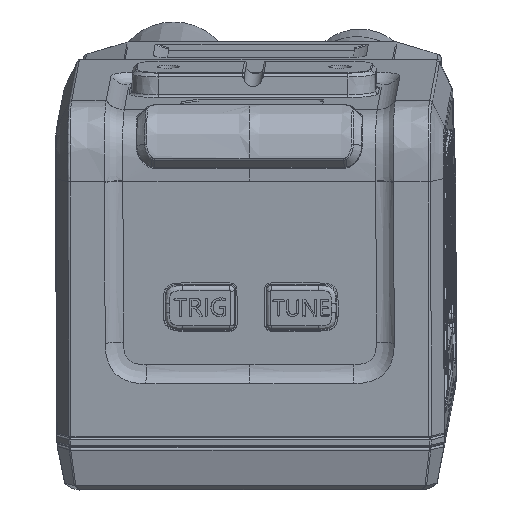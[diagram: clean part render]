
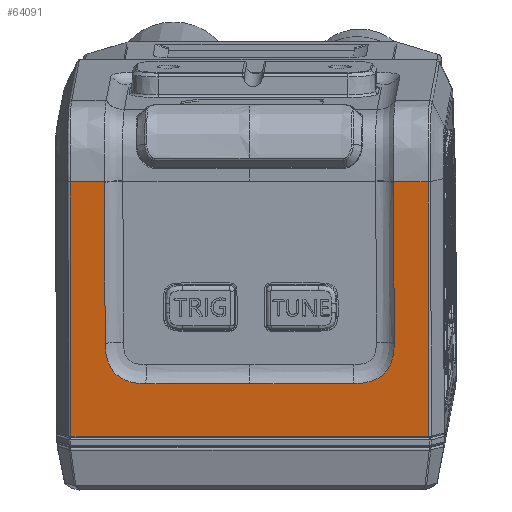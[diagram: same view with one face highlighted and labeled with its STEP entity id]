
A CAD part, left-side view. The second image highlights one B-rep face of the part: STEP entity #64091.
In plain terms, the highlighted planar face has unit normal (-0.991, 0.025, -0.133).
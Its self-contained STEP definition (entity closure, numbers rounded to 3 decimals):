
#9150=CARTESIAN_POINT('',(-266.286,71.873,
-57.034));
#9173=CARTESIAN_POINT('',(-266.383,68.06,
-57.034));
#18886=DIRECTION('',(0.133,-0.003,-0.991));
#18887=VECTOR('',#18886,28.4);
#18888=CARTESIAN_POINT('',(-266.286,71.873,
-57.034));
#18889=LINE('',#18888,#18887);
#18890=DIRECTION('',(-0.025,-1.,0.));
#18891=VECTOR('',#18890,3.815);
#18892=CARTESIAN_POINT('',(-266.286,71.873,
-57.034));
#18893=LINE('',#18892,#18891);
#18894=DIRECTION('',(0.133,-0.003,-0.991));
#18895=VECTOR('',#18894,0.046);
#18896=CARTESIAN_POINT('',(-266.383,68.06,
-57.034));
#18897=LINE('',#18896,#18895);
#18898=DIRECTION('',(0.133,-0.003,-0.991));
#18899=VECTOR('',#18898,17.976);
#18900=CARTESIAN_POINT('',(-266.377,68.06,
-57.08));
#18901=LINE('',#18900,#18899);
#18902=CARTESIAN_POINT('',(-263.99,67.999,
-74.896));
#18903=CARTESIAN_POINT('',(-263.956,67.998,
-75.153));
#18904=CARTESIAN_POINT('',(-263.891,67.976,
-75.641));
#18905=CARTESIAN_POINT('',(-263.796,67.861,
-76.375));
#18906=CARTESIAN_POINT('',(-263.708,67.653,
-77.065));
#18907=CARTESIAN_POINT('',(-263.631,67.329,
-77.706));
#18908=CARTESIAN_POINT('',(-263.567,66.875,
-78.267));
#18909=CARTESIAN_POINT('',(-263.522,66.308,
-78.709));
#18910=CARTESIAN_POINT('',(-263.496,65.667,
-79.023));
#18911=CARTESIAN_POINT('',(-263.487,64.976,
-79.225));
#18912=CARTESIAN_POINT('',(-263.491,64.237,
-79.336));
#18913=CARTESIAN_POINT('',(-263.5,63.744,
-79.356));
#18914=CARTESIAN_POINT('',(-263.507,63.485,
-79.356));
#18916=DIRECTION('',(-0.025,-1.,0.));
#18917=VECTOR('',#18916,11.5);
#18918=CARTESIAN_POINT('',(-263.507,63.485,
-79.356));
#18919=LINE('',#18918,#18917);
#18920=CARTESIAN_POINT('',(-264.09,40.492,
-79.356));
#18921=CARTESIAN_POINT('',(-264.096,40.234,
-79.356));
#18922=CARTESIAN_POINT('',(-264.112,39.742,
-79.336));
#18923=CARTESIAN_POINT('',(-264.145,39.001,
-79.225));
#18924=CARTESIAN_POINT('',(-264.19,38.306,
-79.02));
#18925=CARTESIAN_POINT('',(-264.249,37.661,
-78.701));
#18926=CARTESIAN_POINT('',(-264.324,37.097,
-78.253));
#18927=CARTESIAN_POINT('',(-264.41,36.652,
-77.692));
#18928=CARTESIAN_POINT('',(-264.503,36.338,
-77.058));
#18929=CARTESIAN_POINT('',(-264.6,36.136,
-76.374));
#18930=CARTESIAN_POINT('',(-264.701,36.027,
-75.641));
#18931=CARTESIAN_POINT('',(-264.767,36.008,
-75.153));
#18932=CARTESIAN_POINT('',(-264.801,36.009,
-74.896));
#18934=DIRECTION('',(-0.025,-1.,0.));
#18935=VECTOR('',#18934,3.815);
#18936=CARTESIAN_POINT('',(-267.193,36.07,
-57.033));
#18937=LINE('',#18936,#18935);
#18938=DIRECTION('',(-0.133,0.003,0.991));
#18939=VECTOR('',#18938,28.4);
#18940=CARTESIAN_POINT('',(-263.52,32.161,
-85.182));
#18941=LINE('',#18940,#18939);
#19367=DIRECTION('',(-0.025,-1.,0.));
#19368=VECTOR('',#19367,39.629);
#19369=CARTESIAN_POINT('',(-262.516,71.777,
-85.183));
#19370=LINE('',#19369,#19368);
#20345=DIRECTION('',(0.025,1.,0.));
#20346=VECTOR('',#20345,11.5);
#20347=CARTESIAN_POINT('',(-264.09,40.492,
-79.356));
#20348=LINE('',#20347,#20346);
#20373=DIRECTION('',(0.133,-0.003,-0.991));
#20374=VECTOR('',#20373,17.976);
#20375=CARTESIAN_POINT('',(-267.187,36.07,
-57.079));
#20376=LINE('',#20375,#20374);
#20386=DIRECTION('',(0.133,-0.003,-0.991));
#20387=VECTOR('',#20386,0.046);
#20388=CARTESIAN_POINT('',(-267.193,36.07,
-57.033));
#20389=LINE('',#20388,#20387);
#33228=VERTEX_POINT('',#9150);
#33231=VERTEX_POINT('',#9173);
#33348=CARTESIAN_POINT('',(-262.516,71.777,
-85.183));
#33349=VERTEX_POINT('',#33348);
#33350=CARTESIAN_POINT('',(-263.52,32.161,
-85.182));
#33351=CARTESIAN_POINT('',(-267.29,32.257,
-57.033));
#33352=VERTEX_POINT('',#33350);
#33353=VERTEX_POINT('',#33351);
#33354=CARTESIAN_POINT('',(-266.377,68.06,
-57.08));
#33355=VERTEX_POINT('',#33354);
#33356=CARTESIAN_POINT('',(-263.99,67.999,
-74.896));
#33357=VERTEX_POINT('',#33356);
#33358=VERTEX_POINT('',#18914);
#33359=CARTESIAN_POINT('',(-263.798,51.989,
-79.356));
#33360=VERTEX_POINT('',#33359);
#33361=CARTESIAN_POINT('',(-264.09,40.492,
-79.356));
#33362=VERTEX_POINT('',#33361);
#33363=VERTEX_POINT('',#18932);
#33364=CARTESIAN_POINT('',(-267.187,36.07,
-57.079));
#33365=VERTEX_POINT('',#33364);
#33366=CARTESIAN_POINT('',(-267.193,36.07,
-57.033));
#33367=VERTEX_POINT('',#33366);
#64061=CARTESIAN_POINT('',(-267.344,31.643,
-56.75));
#64062=DIRECTION('',(-0.991,0.025,-0.133));
#64063=DIRECTION('',(0.025,1.,0.));
#64064=AXIS2_PLACEMENT_3D('',#64061,#64062,#64063);
#64065=PLANE('',#64064);
#64067=ORIENTED_EDGE('',*,*,#64066,.F.);
#64069=ORIENTED_EDGE('',*,*,#64068,.F.);
#64070=ORIENTED_EDGE('',*,*,#64054,.F.);
#64071=ORIENTED_EDGE('',*,*,#52991,.T.);
#64073=ORIENTED_EDGE('',*,*,#64072,.T.);
#64075=ORIENTED_EDGE('',*,*,#64074,.T.);
#64077=ORIENTED_EDGE('',*,*,#64076,.T.);
#64079=ORIENTED_EDGE('',*,*,#64078,.T.);
#64081=ORIENTED_EDGE('',*,*,#64080,.F.);
#64083=ORIENTED_EDGE('',*,*,#64082,.T.);
#64085=ORIENTED_EDGE('',*,*,#64084,.F.);
#64087=ORIENTED_EDGE('',*,*,#64086,.F.);
#64088=ORIENTED_EDGE('',*,*,#54554,.T.);
#64089=EDGE_LOOP('',(#64067,#64069,#64070,#64071,#64073,#64075,#64077,#64079,
#64081,#64083,#64085,#64087,#64088));
#64090=FACE_OUTER_BOUND('',#64089,.F.);
#64091=ADVANCED_FACE('',(#64090),#64065,.T.);
#18915=B_SPLINE_CURVE_WITH_KNOTS('',3,(#18902,#18903,#18904,#18905,#18906,
#18907,#18908,#18909,#18910,#18911,#18912,#18913,#18914),.UNSPECIFIED.,.F.,.F.,(
4,1,1,1,1,1,1,1,1,1,4),(0.,0.119,0.227,
0.327,0.417,0.501,0.585,
0.674,0.772,0.881,1.),.UNSPECIFIED.);
#18933=B_SPLINE_CURVE_WITH_KNOTS('',3,(#18920,#18921,#18922,#18923,#18924,
#18925,#18926,#18927,#18928,#18929,#18930,#18931,#18932),.UNSPECIFIED.,.F.,.F.,(
4,1,1,1,1,1,1,1,1,1,4),(0.,0.119,0.227,
0.327,0.417,0.501,0.585,
0.674,0.772,0.881,1.),.UNSPECIFIED.);
#52991=EDGE_CURVE('',#33228,#33231,#18893,.T.);
#54554=EDGE_CURVE('',#33367,#33353,#18937,.T.);
#64054=EDGE_CURVE('',#33228,#33349,#18889,.T.);
#64066=EDGE_CURVE('',#33352,#33353,#18941,.T.);
#64068=EDGE_CURVE('',#33349,#33352,#19370,.T.);
#64072=EDGE_CURVE('',#33231,#33355,#18897,.T.);
#64074=EDGE_CURVE('',#33355,#33357,#18901,.T.);
#64076=EDGE_CURVE('',#33357,#33358,#18915,.T.);
#64078=EDGE_CURVE('',#33358,#33360,#18919,.T.);
#64080=EDGE_CURVE('',#33362,#33360,#20348,.T.);
#64082=EDGE_CURVE('',#33362,#33363,#18933,.T.);
#64084=EDGE_CURVE('',#33365,#33363,#20376,.T.);
#64086=EDGE_CURVE('',#33367,#33365,#20389,.T.);
